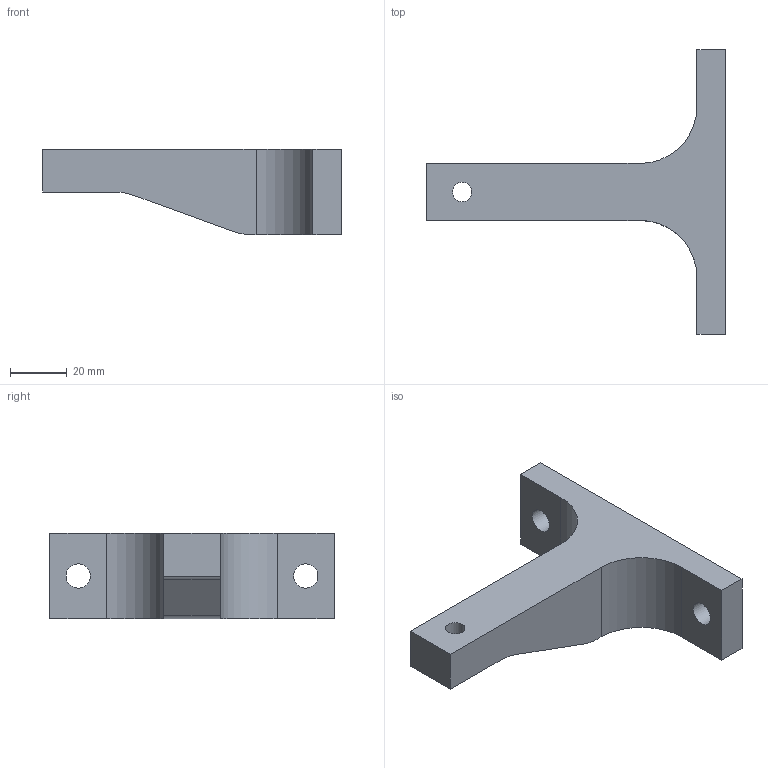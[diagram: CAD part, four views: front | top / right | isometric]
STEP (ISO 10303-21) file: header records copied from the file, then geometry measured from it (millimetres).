
FILE_DESCRIPTION(/* description */ (''),/* implementation_level */ '2;1');
FILE_NAME(/* name */ 'Staffa stabilizzazione.stp',/* time_stamp */ '2020-01-16T17:11:39+01:00',/* author */ (''),/* organization */ (''),/* preprocessor_version */ 'ST-DEVELOPER v16.7',/* originating_system */ 'SIEMENS PLM Software NX 12.0',/* authorisation */ '');
FILE_SCHEMA (('AUTOMOTIVE_DESIGN { 1 0 10303 214 3 1 1 1 }'));
Length unit declared in the file: millimetre
Products named in the file (1): bmas28EC4ACD3f7r
Bounding box: 105 x 100 x 30 mm (x, y, z)
Volume: 75652.6 mm3; surface area: 16751.4 mm2
Topology: 1 solids, 1 shells, 19 faces, 54 edges, 37 vertices
Faces by surface type: plane 12, cylinder 7
Full cylindrical faces by diameter (mm): 6.8 x1, 8.5 x2
Entity records: 628 total; most frequent: DIRECTION 102, CARTESIAN_POINT 102, ORIENTED_EDGE 96, EDGE_CURVE 48, VERTEX_POINT 34, LINE 34, VECTOR 34, AXIS2_PLACEMENT_3D 34
